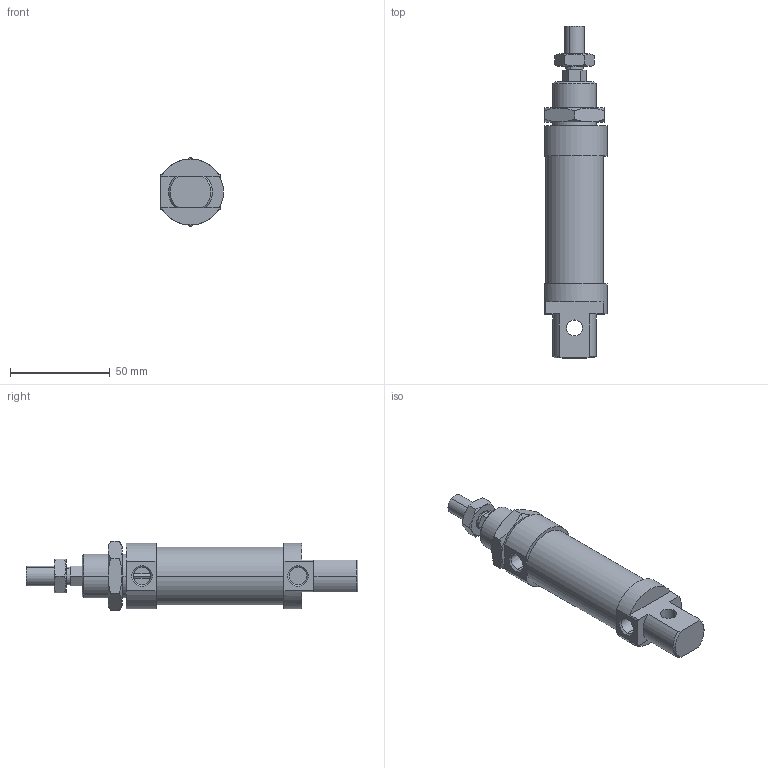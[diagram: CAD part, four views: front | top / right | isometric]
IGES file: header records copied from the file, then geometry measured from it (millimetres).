
Global section: file name: No Iges File Name specified; native system: AutoDesk Inventor R6.0; preprocessor: AutoDesk Inventor Iges Exporter R6.0; author: No Author specified; organization: No Organization specified; date: 20030405.074127; units: millimetre
Bounding box: 31.5 x 166 x 34.64 mm (x, y, z)
Volume: 85062.9 mm3; surface area: 22759.4 mm2
Topology: 4 solids, 4 shells, 125 faces, 285 edges, 174 vertices
Faces by surface type: plane 46, cone 38, bspline 21, cylinder 16, revolution 4
